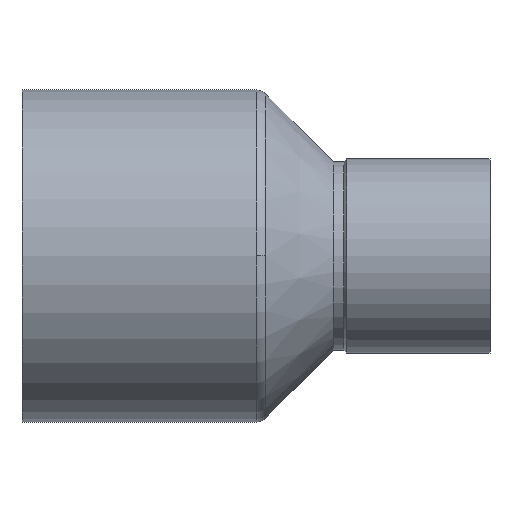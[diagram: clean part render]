
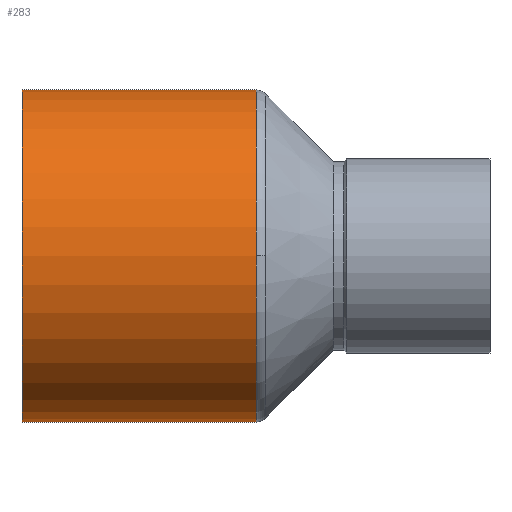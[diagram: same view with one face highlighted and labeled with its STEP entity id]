
A CAD part, top view. The second image highlights one B-rep face of the part: STEP entity #283.
In plain terms, the highlighted cylindrical face has radius 12.065 mm (diameter 24.13 mm), a partial arc.
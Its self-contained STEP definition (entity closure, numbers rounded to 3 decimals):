
#207=CARTESIAN_POINT('',(17.0,12.065,0.0));
#208=VERTEX_POINT('',#207);
#216=CARTESIAN_POINT('',(17.0,0.,12.065));
#217=VERTEX_POINT('',#216);
#218=CARTESIAN_POINT('',(17.0,0.0,0.0));
#219=DIRECTION('',(1.0,0.0,0.0));
#220=DIRECTION('',(0.0,1.0,0.0));
#221=AXIS2_PLACEMENT_3D('',#218,#219,#220);
#222=CIRCLE('',#221,12.065);
#223=EDGE_CURVE('',#208,#217,#222,.T.);
#243=CARTESIAN_POINT('',(8.5,0.0,0.0));
#244=DIRECTION('',(1.0,0.0,0.0));
#245=DIRECTION('',(0.0,1.0,0.0));
#246=AXIS2_PLACEMENT_3D('',#243,#244,#245);
#247=CYLINDRICAL_SURFACE('',#246,12.065);
#248=CARTESIAN_POINT('',(0.0,12.065,0.0));
#249=VERTEX_POINT('',#248);
#250=CARTESIAN_POINT('',(0.0,12.065,0.0));
#251=DIRECTION('',(1.0,0.0,0.0));
#252=VECTOR('',#251,17.0);
#253=LINE('',#250,#252);
#254=EDGE_CURVE('',#249,#208,#253,.T.);
#255=ORIENTED_EDGE('',*,*,#254,.F.);
#256=CARTESIAN_POINT('',(0.0,-12.065,0.));
#257=VERTEX_POINT('',#256);
#258=CARTESIAN_POINT('',(0.0,0.0,0.0));
#259=DIRECTION('',(1.0,0.0,0.0));
#260=DIRECTION('',(0.0,1.0,0.0));
#261=AXIS2_PLACEMENT_3D('',#258,#259,#260);
#262=CIRCLE('',#261,12.065);
#263=EDGE_CURVE('',#249,#257,#262,.T.);
#264=ORIENTED_EDGE('',*,*,#263,.T.);
#265=CARTESIAN_POINT('',(17.0,-12.065,0.));
#266=VERTEX_POINT('',#265);
#267=CARTESIAN_POINT('',(17.0,-12.065,0.));
#268=DIRECTION('',(-1.0,0.0,0.0));
#269=VECTOR('',#268,17.0);
#270=LINE('',#267,#269);
#271=EDGE_CURVE('',#266,#257,#270,.T.);
#272=ORIENTED_EDGE('',*,*,#271,.F.);
#273=CARTESIAN_POINT('',(17.0,0.0,0.0));
#274=DIRECTION('',(1.0,0.0,0.0));
#275=DIRECTION('',(0.0,1.0,0.0));
#276=AXIS2_PLACEMENT_3D('',#273,#274,#275);
#277=CIRCLE('',#276,12.065);
#278=EDGE_CURVE('',#217,#266,#277,.T.);
#279=ORIENTED_EDGE('',*,*,#278,.F.);
#280=ORIENTED_EDGE('',*,*,#223,.F.);
#281=EDGE_LOOP('',(#255,#264,#272,#279,#280));
#282=FACE_OUTER_BOUND('',#281,.T.);
#283=ADVANCED_FACE('',(#282),#247,.T.);
